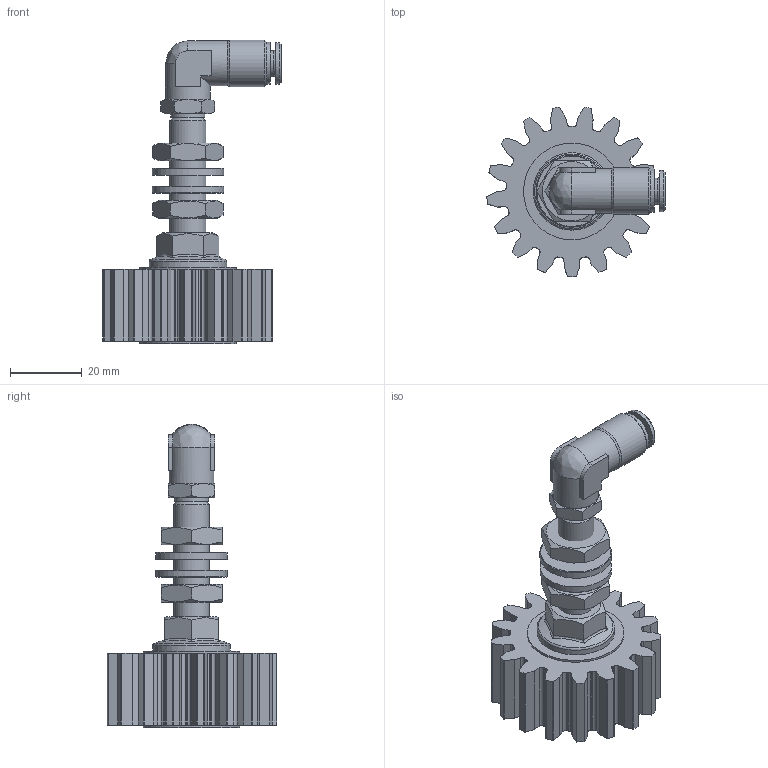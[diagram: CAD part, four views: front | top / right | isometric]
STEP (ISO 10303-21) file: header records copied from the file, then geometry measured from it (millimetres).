
FILE_DESCRIPTION (( 'STEP AP214' ), '1' );
FILE_NAME ('012_13_025_20_17AZ.STEP', '2026-04-01T13:19:19', ( '' ), ( '' ), 'SwSTEP 2.0', 'SolidWorks 2022', '' );
FILE_SCHEMA (( 'AUTOMOTIVE_DESIGN' ));
Length unit declared in the file: millimetre
Products named in the file (13): 012_06_Senkschraube; Schmierzahnrad_025_20_17_G; Mutter_M10; H202225_HDS_022_6_M6_28.09.22; U_Scheibe_10.5; Achse_M10_1_Schmierzahnrad; H214667-HDS_1-8_M6X1Z; OR 7.2X1.9; DR6-C_HDX_25.07.16; 12012_06_01_Scheibe-CRS-VA_27.SLDASM; 012_13_025_20_17AZ; R11155-N2
Assembly tree (14 placements, depth 4):
  012_13_025_20_17AZ
    Achse_M10_1_Schmierzahnrad
    012_06_Senkschraube
    12012_06_01_Scheibe-CRS-VA_27.SLDASM
    Mutter_M10  x2
    U_Scheibe_10.5  x2
    H202225_HDS_022_6_M6_28.09.22
      R11155-N2
      DR6-C_HDX_25.07.16
      H214667-HDS_1-8_M6X1Z
        H214667-HDS_1-8_M6X1Z
        OR 7.2X1.9
    Schmierzahnrad_025_20_17_G
Bounding box: 49.7 x 47.23 x 84.7 mm (x, y, z)
Volume: 39389.1 mm3; surface area: 20046.1 mm2
Topology: 12 solids, 12 shells, 705 faces, 1902 edges, 1258 vertices
Faces by surface type: plane 431, cylinder 125, bspline 95, cone 50, torus 4
Full cylindrical faces by diameter (mm): 2 x1, 4 x1, 4.6 x1, 5 x1, 5.5 x1, 6 x2, 6.2 x1, 6.3 x1, 7.2 x1, 8.5 x2, 9 x2, 9.5 x1, 9.9 x1, 10 x2, 10.1 x2, 10.3 x1, 10.5 x2, 11.5 x1, 11.7 x1, 12.5 x2, 13 x1, 20 x2, 21.6 x1, 27 x2
Entity records: 29583 total; most frequent: CARTESIAN_POINT 11706, ORIENTED_EDGE 3494, DIRECTION 2979, EDGE_CURVE 1747, VERTEX_POINT 1190, VECTOR 1177, LINE 1177, AXIS2_PLACEMENT_3D 901
